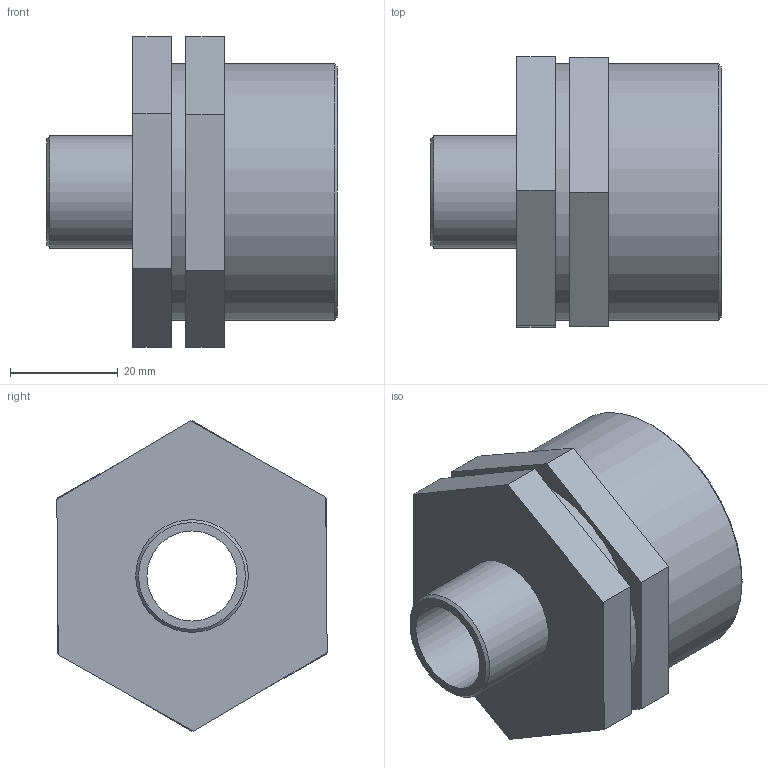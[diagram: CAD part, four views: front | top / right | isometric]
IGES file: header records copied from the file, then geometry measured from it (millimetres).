
Global section: file name: 050605015005_0506050150050A.ipt; native system: Autodesk Inventor 2015; preprocessor: unknown; author: KIM; date: 20170618.093229; units: millimetre
Bounding box: 54 x 50.27 x 57.73 mm (x, y, z)
Volume: 38437.5 mm3; surface area: 16575.2 mm2
Topology: 1 solids, 1 shells, 26 faces, 59 edges, 40 vertices
Faces by surface type: plane 19, cylinder 3, cone 2, revolution 2
Full cylindrical faces by diameter (mm): 20.955 x1, 47.803 x2
